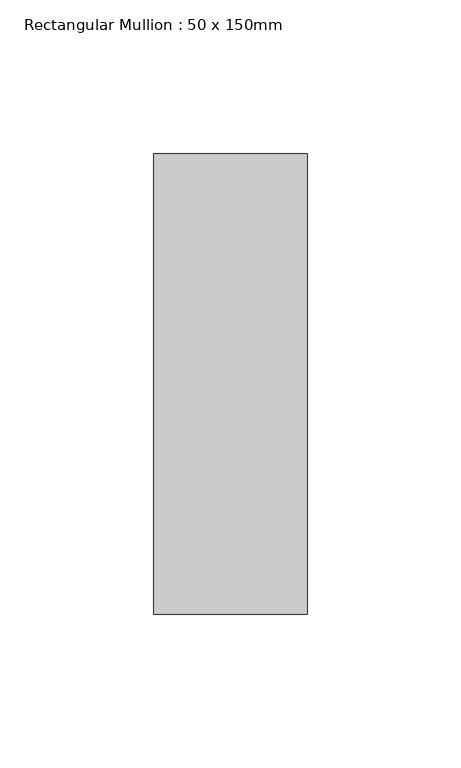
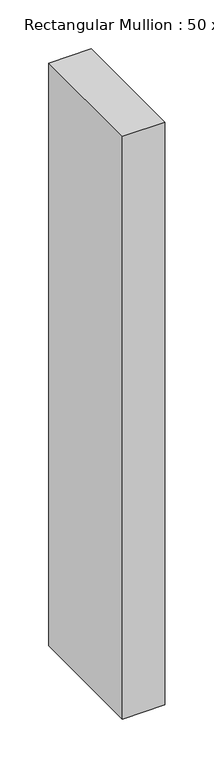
"""IFC4 building model written with IfcOpenShell, lengths in millimetres: member geometry, Rectangular Mullion : 50 x 150mm."""

from ifc_helpers import new_model, si_unit, frame, origin, place, context, project, spatial, polyline, outline, extrude, source, transform, mapped, element, save


def rectangular_mullion_50_x_150mm_d002ab7e(model_context):
    return source(origin(), model_context, "Body", "SweptSolid", [
        extrude(outline(polyline([(0.0, 75.0), (0.0, -75.0), (-50.0, -75.0), (-50.0, 75.0), (0.0, 75.0)])), frame((0.0, 0.0, -726.2916639), z_axis=(0.0, 0.0, 1.0), x_axis=(1.0, 0.0, 0.0)), (0.0, 0.0, 1.0), 726.2916639),
    ])


if __name__ == "__main__":
    model = new_model("IFC4")
    model_context = context("Model", 3, world=origin())
    ifc_project = project(units=[si_unit("LENGTHUNIT", "METRE", prefix="MILLI")], contexts=[model_context])
    site = spatial("IfcSite", under=ifc_project)
    building = spatial("IfcBuilding", under=site)
    placement = place(None, origin())
    rectangular_mullion_50_x_150mm_shape = rectangular_mullion_50_x_150mm_d002ab7e(model_context)
    element("IfcMember", 1, ObjectType="Rectangular Mullion : 50 x 150mm", at=placement, inside=building, context=model_context, shape_type="MappedRepresentation", body=[
        mapped(rectangular_mullion_50_x_150mm_shape, transform((0.0, 0.0, 0.0), x_axis=(1.0, 0.0, 0.0), y_axis=(0.0, 1.0, 0.0), z_axis=(0.0, 0.0, 1.0))),
    ])
    save(model, "model.ifc")
